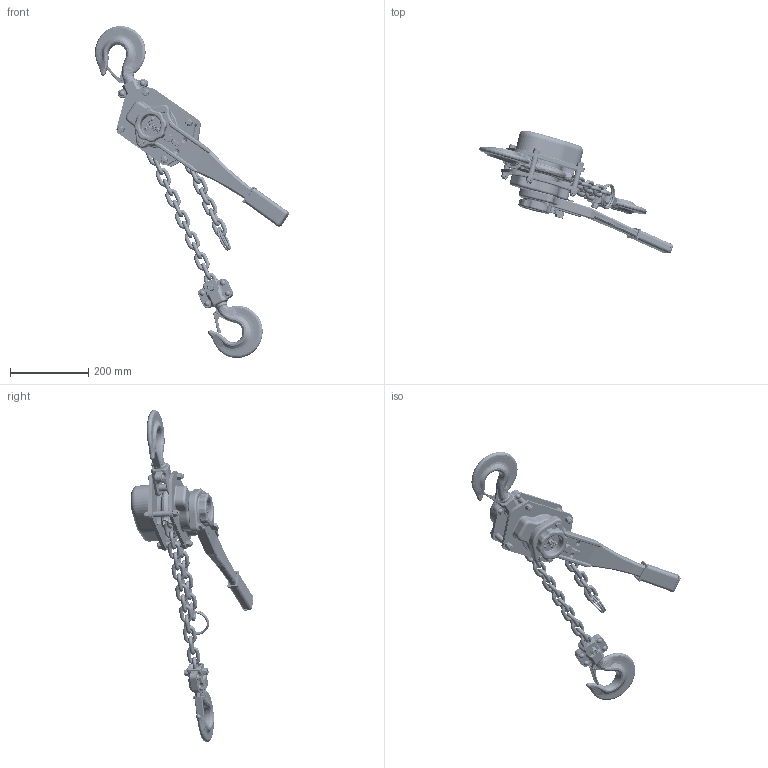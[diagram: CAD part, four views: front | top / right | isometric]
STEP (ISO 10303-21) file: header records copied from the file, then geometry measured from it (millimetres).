
FILE_DESCRIPTION (( 'STEP AP214' ), '1' );
FILE_NAME ('OZ300-LHOP-TM.STEP', '2023-03-13T15:59:53', ( '' ), ( '' ), 'SwSTEP 2.0', 'SolidWorks 2021', '' );
FILE_SCHEMA (( 'AUTOMOTIVE_DESIGN' ));
Length unit declared in the file: millimetre
Products named in the file (1): OZ300-LHOP-TM
Bounding box: 496.95 x 314.53 x 850.82 mm (x, y, z)
Volume: 1989603.6 mm3; surface area: 915232.4 mm2
Topology: 182 solids, 182 shells, 6604 faces, 15398 edges, 9170 vertices
Faces by surface type: cone 2326, cylinder 2230, plane 1205, torus 536, bspline 229, sphere 78
Entity records: 297976 total; most frequent: CARTESIAN_POINT 70995, DIRECTION 34526, ORIENTED_EDGE 30580, EDGE_CURVE 15290, AXIS2_PLACEMENT_3D 14255, VERTEX_POINT 9164, CIRCLE 7879, EDGE_LOOP 7020
